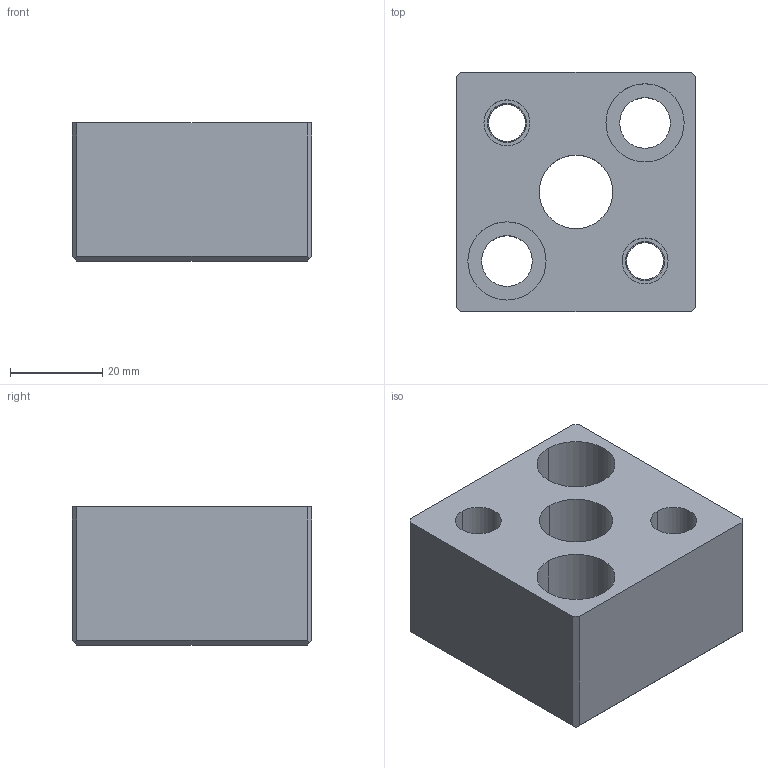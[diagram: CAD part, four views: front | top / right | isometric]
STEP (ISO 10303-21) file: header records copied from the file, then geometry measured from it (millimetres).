
FILE_DESCRIPTION(/* description */ (''),/* implementation_level */ '2;1');
FILE_NAME(/* name */ '3d_sa-fn16_05040_r00.stp',/* time_stamp */ '2011-01-10T14:11:29+09:00',/* author */ ('MISUMI'),/* organization */ (''),/* preprocessor_version */ 'ST-DEVELOPER v11',/* originating_system */ 'UGS - NX 5.0',/* authorisation */ '');
FILE_SCHEMA (('CONFIG_CONTROL_DESIGN'));
Length unit declared in the file: millimetre
Products named in the file (1): 3d_sa-fn16_05040_r00
Bounding box: 52 x 52 x 30 mm (x, y, z)
Volume: 60996.4 mm3; surface area: 16307.6 mm2
Topology: 1 solids, 1 shells, 47 faces, 116 edges, 77 vertices
Faces by surface type: cylinder 23, plane 22, cone 2
Entity records: 1520 total; most frequent: DIRECTION 260, CARTESIAN_POINT 246, ORIENTED_EDGE 232, EDGE_CURVE 116, AXIS2_PLACEMENT_3D 97, VERTEX_POINT 77, LINE 66, VECTOR 66
